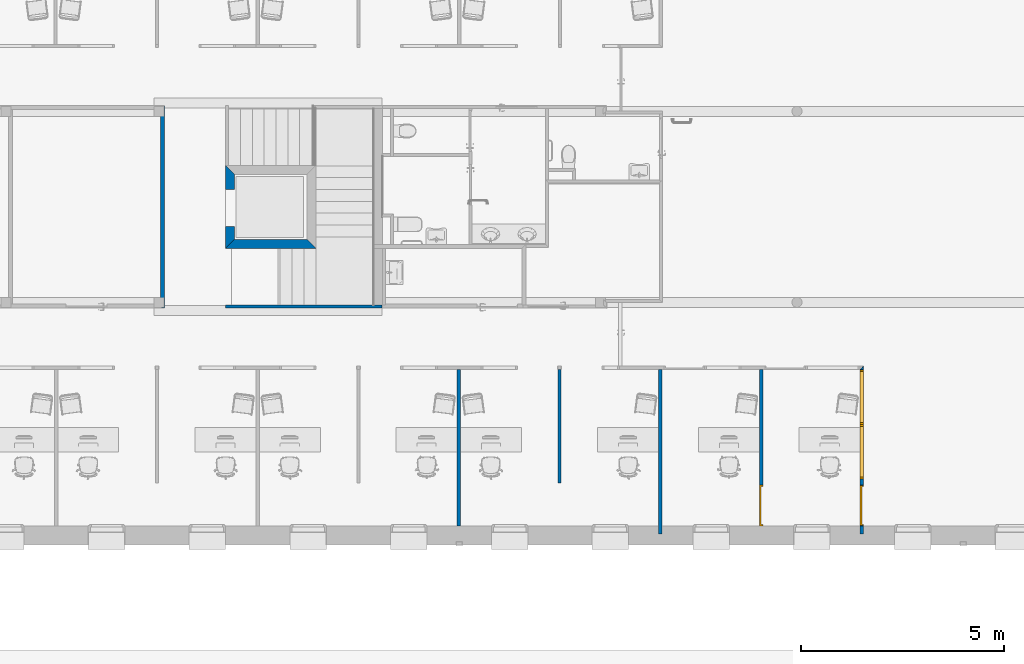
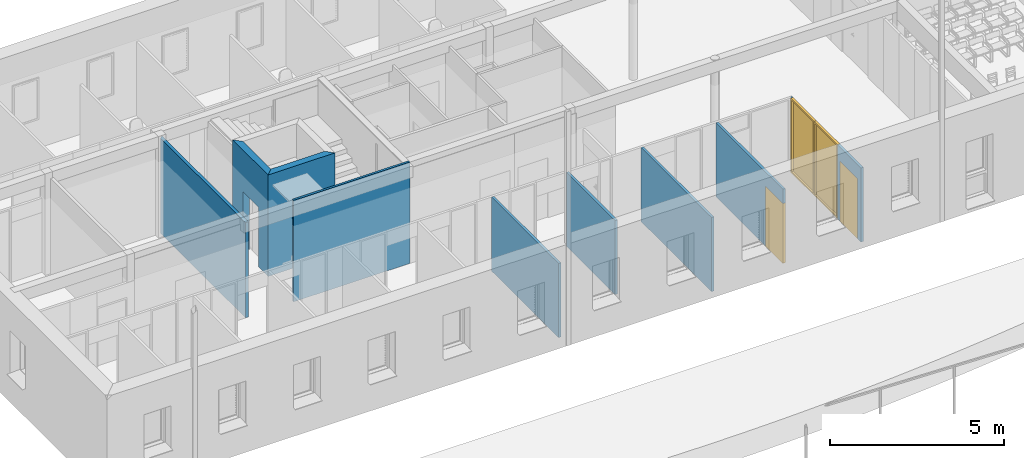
# One storey, part 18 of 91: 9 walls, 2 doors, 2 windows, 5 openings.
"""IFC2X3 building model written with IfcOpenShell, lengths in metres."""

from ifc_helpers import new_model, entity, si_unit, converted_unit, derived_unit, money_unit, direction, frame, origin_with_axes, origin_2d_with_axis, place, context, subcontext, project, spatial, polyline, rectangle, outline, extrude, open_shell, faceted_brep, surface_model, source, transform, mapped, material, layer, layer_set, layer_usage, type_object, element, fill, save


model = new_model("IFC2X3")

# Units and contexts
model_context = context("Model", 3, precision=1e-05, world=origin_with_axes(), true_north=direction((0.0, 1.0)))
body_context = subcontext(model_context, "Body", "Model", "MODEL_VIEW")
ifc_project = project(units=[si_unit("LENGTHUNIT", "METRE"), si_unit("AREAUNIT", "SQUARE_METRE"), si_unit("VOLUMEUNIT", "CUBIC_METRE"), converted_unit("PLANEANGLEUNIT", "DEGREE", entity("IfcPlaneAngleMeasure", 0.0174532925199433), si_unit("PLANEANGLEUNIT", "RADIAN"), dimensions=[0, 0, 0, 0, 0, 0, 0]), money_unit("EUR"), converted_unit("TIMEUNIT", "Year", entity("IfcTimeMeasure", 31557600.0), si_unit("TIMEUNIT", "SECOND"), dimensions=[0, 0, 1, 0, 0, 0, 0]), si_unit("MASSUNIT", "GRAM", prefix="KILO"), si_unit("THERMODYNAMICTEMPERATUREUNIT", "DEGREE_CELSIUS"), si_unit("LUMINOUSINTENSITYUNIT", "LUMEN"), si_unit("ENERGYUNIT", "JOULE", prefix="MEGA"), derived_unit("THERMALCONDUCTANCEUNIT", [(si_unit("POWERUNIT", "WATT"), 1), (si_unit("LENGTHUNIT", "METRE"), -1), (si_unit("THERMODYNAMICTEMPERATUREUNIT", "KELVIN"), -1)]), derived_unit("SPECIFICHEATCAPACITYUNIT", [(si_unit("ENERGYUNIT", "JOULE"), 1), (si_unit("MASSUNIT", "GRAM", prefix="KILO"), -1), (si_unit("THERMODYNAMICTEMPERATUREUNIT", "KELVIN"), -1)]), derived_unit("MASSDENSITYUNIT", [(si_unit("MASSUNIT", "GRAM", prefix="KILO"), 1), (si_unit("VOLUMEUNIT", "CUBIC_METRE"), -1)])], contexts=[model_context])

# Site, building, storey
site_placement = place(None, origin_with_axes())
site = spatial("IfcSite", under=ifc_project, at=site_placement, Name="Site", CompositionType="ELEMENT")
building_placement = place(site_placement, origin_with_axes())
building = spatial("IfcBuilding", under=site, at=building_placement, Name="Bâtiment", CompositionType="ELEMENT")
storey_placement = place(building_placement, origin_with_axes())
storey = spatial("IfcBuildingStorey", under=building, at=storey_placement, Name="RDC", CompositionType="ELEMENT", Elevation=0.0)

# Wall
ifc_material_1 = material(Name="*GENERIQUE - ENDUIT EXT")
ifc_layer_1 = layer(ifc_material_1, 0.02, ventilated="UNKNOWN")
ifc_material_2 = material(Name="*GENERIQUE - MAÇONNERIE")
ifc_layer_2 = layer(ifc_material_2, 0.2, ventilated="UNKNOWN")
ifc_layer_set_1 = layer_set([ifc_layer_1, ifc_layer_2], Name="*Mur ENDUIT 1 face")
ifc_layer_usage_1 = layer_usage(ifc_layer_set_1, "AXIS2", "NEGATIVE", 0.0)
wall_type_1 = type_object("IfcWallType", Name="*Mur ENDUIT 1 face 220", PredefinedType="NOTDEFINED")
wall_1_placement = place(storey_placement, frame((36.41300800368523, -20.12756464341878, 0.0), z_axis=(0.0, 0.0, 1.0), x_axis=(-1.0, 0.0, 0.0)))
element("IfcWallStandardCase", 1, at=wall_1_placement, inside=storey, type_object=wall_type_1, material=ifc_layer_usage_1, Name="MC_AGL_Ext-060", context=body_context, shape_type="SweptSolid", body=[
    extrude(outline(polyline([(0.2199999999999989, -0.2199999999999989), (2.0, -0.2199999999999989), (2.219999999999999, 0.0), (0.0, 0.0), (0.2199999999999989, -0.2199999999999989)])), origin_with_axes(), (0.0, 0.0, 1.0), 3.56),
])

# Wall, opening
ifc_layer_usage_2 = layer_usage(ifc_layer_set_1, "AXIS2", "NEGATIVE", 0.0)
wall_2_placement = place(storey_placement, frame((34.19300800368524, -20.12756464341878, 0.0), z_axis=(0.0, 0.0, 1.0), x_axis=(0.0, 1.0, 0.0)))
wall_2 = element("IfcWallStandardCase", 2, at=wall_2_placement, inside=storey, type_object=wall_type_1, material=ifc_layer_usage_2, Name="MC_AGL_Ext-061", context=body_context, shape_type="SweptSolid", body=[
    extrude(outline(polyline([(0.2199999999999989, -0.2199999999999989), (1.820002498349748, -0.2199999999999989), (2.040002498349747, 0.0), (0.0, 0.0), (0.2199999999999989, -0.2199999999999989)])), origin_with_axes(), (0.0, 0.0, 1.0), 3.56),
])
opening_1_placement = place(wall_2_placement, frame((0.9919061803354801, 0.0, 0.0), z_axis=(0.0, 0.0, 1.0), x_axis=(1.0, 0.0, 0.0)))
element("IfcOpeningElement", 3, at=opening_1_placement, cuts=wall_2, Name="Me1", context=body_context, shape_type="SweptSolid", body=[
    extrude(rectangle(XDim=0.8999999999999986, YDim=2.1, at=origin_2d_with_axis()), frame((0.0, -0.2199999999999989, 1.05), z_axis=(0.0, 1.0, 0.0), x_axis=(-1.0, 0.0, 0.0)), (0.0, 0.0, 1.0), 0.66),
])

# Walls
ifc_material_3 = material(Name="*PLAQUE DE PLATRE - CLOISON")
ifc_layer_3 = layer(ifc_material_3, 0.026, ventilated="UNKNOWN")
ifc_material_4 = material(Name="*GENERIQUE - ISOLATION INT")
ifc_layer_4 = layer(ifc_material_4, 0.048, ventilated="UNKNOWN")
ifc_layer_5 = layer(ifc_material_3, 0.026, ventilated="UNKNOWN")
ifc_layer_set_2 = layer_set([ifc_layer_3, ifc_layer_4, ifc_layer_5], Name="*Cloison 98")
ifc_layer_usage_3 = layer_usage(ifc_layer_set_2, "AXIS2", "NEGATIVE", 0.0)
wall_type_2 = type_object("IfcWallType", Name="*Cloison 98 100", PredefinedType="NOTDEFINED")
wall_3_placement = place(storey_placement, frame((32.69300800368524, -16.61756236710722, 0.0), z_axis=(0.0, 0.0, 1.0), x_axis=(0.0, -1.0, 0.0)))
element("IfcWallStandardCase", 4, at=wall_3_placement, inside=storey, type_object=wall_type_2, material=ifc_layer_usage_3, Name="Cloison ép.10 - CF1h", context=body_context, shape_type="SweptSolid", body=[
    extrude(outline(polyline([(0.1000000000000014, -0.1000000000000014), (4.979999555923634, -0.1000000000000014), (4.979999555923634, 0.0), (0.0, 0.0), (0.1000000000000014, -0.1000000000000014)])), origin_with_axes(), (0.0, 0.0, 1.0), 3.34),
])
ifc_material_5 = material(Name="Finition int - Plaque de plâtre")
ifc_layer_6 = layer(ifc_material_5, 0.013, ventilated="UNKNOWN")
ifc_material_6 = material(Name="Isolation - Laine de verre")
ifc_layer_7 = layer(ifc_material_6, 0.048, ventilated="UNKNOWN")
ifc_layer_8 = layer(ifc_material_5, 0.013, ventilated="UNKNOWN")
ifc_layer_set_3 = layer_set([ifc_layer_6, ifc_layer_7, ifc_layer_8], Name="*Cloison 72")
ifc_layer_usage_4 = layer_usage(ifc_layer_set_3, "AXIS2", "NEGATIVE", 0.0)
wall_type_3 = type_object("IfcWallType", Name="*Cloison 72 74", PredefinedType="NOTDEFINED")
wall_4_placement = place(storey_placement, frame((38.04800801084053, -21.59756192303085, 0.0), z_axis=(0.0, 0.0, 1.0), x_axis=(-1.0, 0.0, 0.0)))
element("IfcWallStandardCase", 5, at=wall_4_placement, inside=storey, type_object=wall_type_3, material=ifc_layer_usage_4, Name="Cloisons ép. 72mm", context=body_context, shape_type="SweptSolid", body=[
    extrude(outline(polyline([(0.0, -0.07400000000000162), (3.855000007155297, -0.07400000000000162), (3.855000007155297, 0.0), (0.0, 0.0), (0.0, -0.07400000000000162)])), origin_with_axes(), (0.0, 0.0, 1.0), 3.56),
])
ifc_layer_9 = layer(ifc_material_3, 0.08, ventilated="UNKNOWN")
ifc_layer_set_4 = layer_set([ifc_layer_9], Name="*PLAQUE DE PLATRE - CLOISON 0.08")
ifc_layer_usage_5 = layer_usage(ifc_layer_set_4, "AXIS2", "NEGATIVE", 0.0)
wall_type_4 = type_object("IfcWallType", Name="*PLAQUE DE PLATRE - CLOISON 80", PredefinedType="NOTDEFINED")
wall_5_placement = place(storey_placement, frame((42.45299999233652, -23.11056215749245, 0.0), z_axis=(0.0, 0.0, 1.0), x_axis=(0.0, -1.0, 0.0)))
element("IfcWallStandardCase", 6, at=wall_5_placement, inside=storey, type_object=wall_type_4, material=ifc_layer_usage_5, Name="Cloison modulaire", context=body_context, shape_type="SweptSolid", body=[
    extrude(outline(polyline([(0.0, -0.0799999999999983), (2.796999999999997, -0.0799999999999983), (2.796999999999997, 0.0), (0.0, 0.0), (0.0, -0.0799999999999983)])), origin_with_axes(), (0.0, 0.0, 1.0), 2.6),
])
ifc_layer_usage_6 = layer_usage(ifc_layer_set_4, "AXIS2", "NEGATIVE", 0.0)
wall_6_placement = place(storey_placement, frame((39.96999999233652, -23.11056215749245, 0.0), z_axis=(0.0, 0.0, 1.0), x_axis=(0.0, -1.0, 0.0)))
element("IfcWallStandardCase", 7, at=wall_6_placement, inside=storey, type_object=wall_type_4, material=ifc_layer_usage_6, Name="Cloison modulaire", context=body_context, shape_type="SweptSolid", body=[
    extrude(outline(polyline([(0.0, -0.0799999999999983), (3.846999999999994, -0.0799999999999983), (3.846999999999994, 0.0), (0.0, 0.0), (0.0, -0.0799999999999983)])), origin_with_axes(), (0.0, 0.0, 1.0), 2.6),
])

# Wall, openings, windows, door
ifc_layer_usage_7 = layer_usage(ifc_layer_set_4, "AXIS2", "NEGATIVE", 0.0)
wall_7_placement = place(storey_placement, frame((49.88999999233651, -23.11056215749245, 0.0), z_axis=(0.0, 0.0, 1.0), x_axis=(0.0, -1.0, 0.0)))
wall_7 = element("IfcWallStandardCase", 8, at=wall_7_placement, inside=storey, type_object=wall_type_4, material=ifc_layer_usage_7, Name="Cloison modulaire", context=body_context, shape_type="SweptSolid", body=[
    extrude(outline(polyline([(0.0, -0.0799999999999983), (4.046999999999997, -0.0799999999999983), (4.046999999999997, 0.0), (-0.08000000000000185, 0.0), (0.0, -0.0799999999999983)])), origin_with_axes(), (0.0, 0.0, 1.0), 2.6),
])
opening_2_placement = place(wall_7_placement, frame((0.6749999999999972, 0.0, 0.0), z_axis=(0.0, 0.0, 1.0), x_axis=(1.0, 0.0, 0.0)))
opening_2 = element("IfcOpeningElement", 9, at=opening_2_placement, cuts=wall_7, Name="CH.3+vitrophanie", context=body_context, shape_type="SweptSolid", body=[
    extrude(rectangle(XDim=1.347000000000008, YDim=2.6, at=origin_2d_with_axis()), frame((0.0, 0.0799999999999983, 1.3), z_axis=(0.0, -1.0, 0.0), x_axis=(1.0, 0.0, 0.0)), (0.0, 0.0, 1.0), 0.24),
])
opening_3_placement = place(wall_7_placement, frame((3.346999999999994, 0.0, 0.0), z_axis=(0.0, 0.0, 1.0), x_axis=(1.0, 0.0, 0.0)))
opening_3 = element("IfcOpeningElement", 10, at=opening_3_placement, cuts=wall_7, Name="Pi.03", context=body_context, shape_type="SweptSolid", body=[
    extrude(rectangle(XDim=1.0, YDim=2.1, at=origin_2d_with_axis()), frame((0.0, 0.0799999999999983, 1.05), z_axis=(0.0, 1.0, 0.0), x_axis=(1.0, 0.0, 0.0)), (0.0, 0.0, -1.0), 0.24),
])
opening_4_placement = place(wall_7_placement, frame((2.022000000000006, 0.0, 0.0), z_axis=(0.0, 0.0, 1.0), x_axis=(1.0, 0.0, 0.0)))
opening_4 = element("IfcOpeningElement", 11, at=opening_4_placement, cuts=wall_7, Name="CH.3+vitrophanie", context=body_context, shape_type="SweptSolid", body=[
    extrude(rectangle(XDim=1.347000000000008, YDim=2.6, at=origin_2d_with_axis()), frame((0.0, 0.0799999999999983, 1.3), z_axis=(0.0, -1.0, 0.0), x_axis=(1.0, 0.0, 0.0)), (0.0, 0.0, 1.0), 0.24),
])
window_style = type_object("IfcWindowStyle", Name="Fenêtre 27", ConstructionType="NOTDEFINED", OperationType="SINGLE_PANEL", ParameterTakesPrecedence=False, Sizeable=False)
shared_shape_1 = source(origin_with_axes(), body_context, "Body", "SurfaceModel", [
    faceted_brep([(-0.6235000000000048, -0.08000000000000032, 2.55), (-0.6235000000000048, 0.0, 2.55), (-0.6735000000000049, 0.0, 2.6), (-0.6735000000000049, -0.08000000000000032, 2.6), (-0.6235000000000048, -0.08, 0.05), (-0.6235000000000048, 0.0, 0.05), (-0.6735000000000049, 0.0, 0.0), (-0.6735000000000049, -0.08, 0.0)], [[[0, 1, 2, 3]], [[4, 5, 1, 0]], [[1, 5, 6, 2]], [[3, 2, 6, 7]], [[0, 3, 7, 4]], [[7, 6, 5, 4]]]),
    faceted_brep([(0.6235000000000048, -0.08, 0.05), (0.6235000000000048, 0.0, 0.05), (0.6735000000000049, 0.0, 0.0), (0.6735000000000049, -0.08, 0.0), (0.6235000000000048, -0.08000000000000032, 2.55), (0.6235000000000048, 0.0, 2.55), (0.6735000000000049, 0.0, 2.6), (0.6735000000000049, -0.08000000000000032, 2.6)], [[[0, 1, 2, 3]], [[4, 5, 1, 0]], [[1, 5, 6, 2]], [[3, 2, 6, 7]], [[0, 3, 7, 4]], [[7, 6, 5, 4]]]),
    faceted_brep([(-0.6235000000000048, -0.08, 0.05), (-0.6235000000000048, 0.0, 0.05), (-0.6735000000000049, 0.0, 0.0), (-0.6735000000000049, -0.08, 0.0), (0.6235000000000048, -0.08, 0.05), (0.6235000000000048, 0.0, 0.05), (0.6735000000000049, 0.0, 0.0), (0.6735000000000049, -0.08, 0.0)], [[[0, 1, 2, 3]], [[4, 5, 1, 0]], [[1, 5, 6, 2]], [[3, 2, 6, 7]], [[0, 3, 7, 4]], [[7, 6, 5, 4]]]),
    faceted_brep([(0.6235000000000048, -0.08000000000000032, 2.55), (0.6235000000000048, 0.0, 2.55), (0.6735000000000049, 0.0, 2.6), (0.6735000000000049, -0.08000000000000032, 2.6), (-0.6235000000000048, -0.08000000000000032, 2.55), (-0.6235000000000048, 0.0, 2.55), (-0.6735000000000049, 0.0, 2.6), (-0.6735000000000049, -0.08000000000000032, 2.6)], [[[0, 1, 2, 3]], [[4, 5, 1, 0]], [[1, 5, 6, 2]], [[3, 2, 6, 7]], [[0, 3, 7, 4]], [[7, 6, 5, 4]]]),
    surface_model("IfcShellBasedSurfaceModel", [(-0.6235000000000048, -0.02, 0.05000000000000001), (0.6235000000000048, -0.02, 0.05000000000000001), (0.6235000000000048, -0.02000000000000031, 2.55), (-0.6235000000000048, -0.02000000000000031, 2.55)], [open_shell([[[0, 1, 2, 3]]])]),
    surface_model("IfcShellBasedSurfaceModel", [(-0.6235000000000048, 0.0, 0.05000000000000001), (-0.6235000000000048, 0.0, 2.55), (0.6235000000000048, 0.0, 2.55), (0.6235000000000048, 0.0, 0.05000000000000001)], [open_shell([[[0, 1, 2, 3]]])]),
])
window_1_placement = place(opening_2_placement, frame((-0.6735000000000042, 0.0, 0.0), z_axis=(0.0, 0.0, 1.0), x_axis=(1.0, 0.0, 0.0)))
window_1 = element("IfcWindow", 12, at=window_1_placement, inside=storey, type_object=window_style, Name="CH.3+vitrophanie", OverallHeight=2.6, OverallWidth=1.347, context=body_context, shape_type="MappedRepresentation", body=[
    mapped(shared_shape_1, transform((0.6735000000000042, 0.0, 0.0))),
])
fill(opening_2, window_1)
window_2_placement = place(opening_4_placement, frame((-0.6735000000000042, 0.0, 0.0), z_axis=(0.0, 0.0, 1.0), x_axis=(1.0, 0.0, 0.0)))
window_2 = element("IfcWindow", 13, at=window_2_placement, inside=storey, type_object=window_style, Name="CH.3+vitrophanie", OverallHeight=2.6, OverallWidth=1.347, context=body_context, shape_type="MappedRepresentation", body=[
    mapped(shared_shape_1, transform((0.6735000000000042, 0.0, 0.0))),
])
fill(opening_4, window_2)
door_style = type_object("IfcDoorStyle", Name="Porte 27", ConstructionType="NOTDEFINED", OperationType="SINGLE_SWING_LEFT", ParameterTakesPrecedence=False, Sizeable=False)
shared_shape_2 = source(origin_with_axes(), body_context, "Body", "Brep", [
    faceted_brep([(0.4649999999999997, -0.04, 0.0), (0.465, -0.08, 0.0), (0.465, -0.08, 2.04), (0.465, -0.04, 2.04), (0.475, -0.04, 0.0), (0.475, 0.0, 0.0), (0.5, 0.0, 0.0), (0.5, -0.08, 0.0), (0.5, -0.08, 2.04), (0.475, -0.04, 2.04), (0.5, 0.0, 2.04), (0.475, 0.0, 2.04)], [[[0, 1, 2, 3]], [[4, 5, 6, 7, 1, 0]], [[1, 7, 8, 2]], [[9, 3, 2, 8, 10, 11]], [[9, 4, 0, 3]], [[11, 5, 4, 9]], [[11, 10, 6, 5]], [[6, 10, 8, 7]]]),
    faceted_brep([(-0.475, -0.04, 2.04), (-0.475, 0.0, 2.04), (-0.5, 0.0, 2.04), (-0.5, -0.08, 2.04), (-0.465, -0.08, 2.04), (-0.465, -0.04, 2.04), (-0.475, -0.04, 0.0), (-0.475, 0.0, 0.0), (-0.5, 0.0, 0.0), (-0.5, -0.08, 0.0), (-0.465, -0.08, 0.0), (-0.465, -0.04, 0.0)], [[[0, 1, 2, 3, 4, 5]], [[0, 6, 7, 1]], [[7, 8, 2, 1]], [[2, 8, 9, 3]], [[3, 9, 10, 4]], [[5, 4, 10, 11]], [[5, 11, 6, 0]], [[6, 11, 10, 9, 8, 7]]]),
    faceted_brep([(0.475, 0.0, 2.05), (-0.475, 0.0, 2.05), (-0.475, 0.0, 2.04), (-0.5, 0.0, 2.04), (-0.5, 0.0, 2.1), (0.5, 0.0, 2.1), (0.5, 0.0, 2.04), (0.475, 0.0, 2.04), (0.475, -0.04, 2.05), (-0.475, -0.04, 2.05), (-0.475, -0.04, 2.04), (-0.465, -0.04, 2.04), (-0.465, -0.08, 2.04), (-0.5, -0.08, 2.04), (-0.5, -0.08, 2.1), (0.5, -0.08, 2.1), (0.5, -0.08, 2.04), (0.475, -0.04, 2.04), (0.465, -0.08, 2.04), (0.465, -0.04, 2.04)], [[[0, 1, 2, 3, 4, 5, 6, 7]], [[0, 8, 9, 1]], [[1, 9, 10, 2]], [[10, 11, 12, 13, 3, 2]], [[4, 3, 13, 14]], [[5, 4, 14, 15]], [[6, 5, 15, 16]], [[17, 7, 6, 16, 18, 19]], [[7, 17, 8, 0]], [[10, 9, 8, 17, 19, 11]], [[19, 18, 12, 11]], [[12, 18, 16, 15, 14, 13]]]),
    faceted_brep([(-0.475, 0.0, 0.0), (0.475, 0.0, 0.0), (0.475, -0.04, 0.0), (-0.475, -0.04, 0.0), (-0.475, 0.0, 2.05), (0.475, 0.0, 2.05), (0.475, -0.04000000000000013, 2.05), (-0.475, -0.04000000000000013, 2.05)], [[[0, 1, 2, 3]], [[0, 4, 5, 1]], [[1, 5, 6, 2]], [[3, 2, 6, 7]], [[4, 0, 3, 7]], [[5, 4, 7, 6]]]),
])
door_1_placement = place(opening_3_placement, frame((0.5, 0.0, 0.0), z_axis=(0.0, 0.0, 1.0), x_axis=(-1.0, 0.0, 0.0)))
door_1 = element("IfcDoor", 14, at=door_1_placement, inside=storey, type_object=door_style, Name="Pi.03", OverallHeight=2.1, OverallWidth=1.0, context=body_context, shape_type="MappedRepresentation", body=[
    mapped(shared_shape_2, transform((0.5, 0.0799999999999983, 0.0))),
])
fill(opening_3, door_1)

# Wall, opening, door
ifc_layer_usage_8 = layer_usage(ifc_layer_set_4, "AXIS2", "NEGATIVE", 0.0)
wall_8_placement = place(storey_placement, frame((47.41299999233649, -23.11056215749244, 0.0), z_axis=(0.0, 0.0, 1.0), x_axis=(0.0, -1.0, 0.0)))
wall_8 = element("IfcWallStandardCase", 15, at=wall_8_placement, inside=storey, type_object=wall_type_4, material=ifc_layer_usage_8, Name="Cloison modulaire", context=body_context, shape_type="SweptSolid", body=[
    extrude(outline(polyline([(0.0, -0.0799999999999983), (3.846999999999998, -0.0799999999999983), (3.846999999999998, 0.0), (0.0, 0.0), (0.0, -0.0799999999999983)])), origin_with_axes(), (0.0, 0.0, 1.0), 2.6),
])
opening_5_placement = place(wall_8_placement, frame((3.346999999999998, 0.0, 0.0), z_axis=(0.0, 0.0, 1.0), x_axis=(1.0, 0.0, 0.0)))
opening_5 = element("IfcOpeningElement", 16, at=opening_5_placement, cuts=wall_8, Name="Pi.03", context=body_context, shape_type="SweptSolid", body=[
    extrude(rectangle(XDim=1.0, YDim=2.1, at=origin_2d_with_axis()), frame((0.0, 0.0799999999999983, 1.05), z_axis=(0.0, 1.0, 0.0), x_axis=(1.0, 0.0, 0.0)), (0.0, 0.0, -1.0), 0.24),
])
door_2_placement = place(opening_5_placement, frame((0.5, 0.0, 0.0), z_axis=(0.0, 0.0, 1.0), x_axis=(-1.0, 0.0, 0.0)))
door_2 = element("IfcDoor", 17, at=door_2_placement, inside=storey, type_object=door_style, Name="Pi.03", OverallHeight=2.1, OverallWidth=1.0, context=body_context, shape_type="MappedRepresentation", body=[
    mapped(shared_shape_2, transform((0.5, 0.0799999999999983, 0.0))),
])
fill(opening_5, door_2)

# Wall
ifc_layer_usage_9 = layer_usage(ifc_layer_set_4, "AXIS2", "NEGATIVE", 0.0)
wall_9_placement = place(storey_placement, frame((44.92999999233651, -23.11056215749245, 0.0), z_axis=(0.0, 0.0, 1.0), x_axis=(0.0, -1.0, 0.0)))
element("IfcWallStandardCase", 18, at=wall_9_placement, inside=storey, type_object=wall_type_4, material=ifc_layer_usage_9, Name="Cloison modulaire", context=body_context, shape_type="SweptSolid", body=[
    extrude(outline(polyline([(0.0, -0.0799999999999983), (4.046999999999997, -0.0799999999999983), (4.046999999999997, 0.0), (0.0, 0.0), (0.0, -0.0799999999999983)])), origin_with_axes(), (0.0, 0.0, 1.0), 2.6),
])

save(model, "model.ifc")
